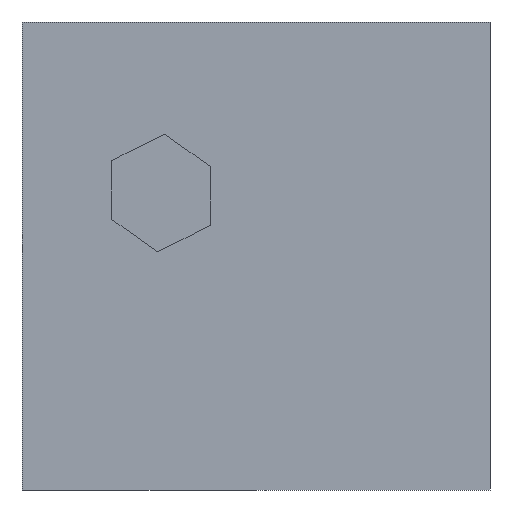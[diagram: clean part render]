
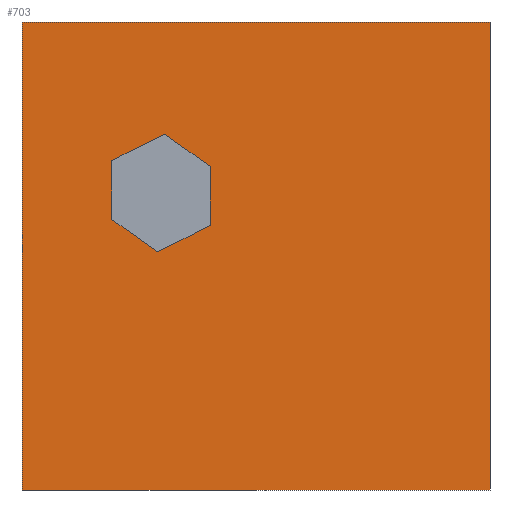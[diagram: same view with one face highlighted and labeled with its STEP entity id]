
A CAD part, left-side view. The second image highlights one B-rep face of the part: STEP entity #703.
In plain terms, the highlighted planar face has unit normal (-1, 0, 0).
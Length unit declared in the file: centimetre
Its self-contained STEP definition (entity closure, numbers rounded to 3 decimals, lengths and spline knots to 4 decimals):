
#7 = ORIENTED_EDGE ( 'NONE', *, *, #295, .F. ) ;
#20 = CARTESIAN_POINT ( 'NONE',  ( 0., 1000., 1000. ) ) ;
#31 = VERTEX_POINT ( 'NONE', #55 ) ;
#55 = CARTESIAN_POINT ( 'NONE',  ( 0., 597.5668, 565.4635 ) ) ;
#78 = LINE ( 'NONE', #1147, #1235 ) ;
#81 = ORIENTED_EDGE ( 'NONE', *, *, #857, .F. ) ;
#110 = CARTESIAN_POINT ( 'NONE',  ( 0., 808.0331, 578.1658 ) ) ;
#135 = CARTESIAN_POINT ( 'NONE',  ( 0., 695.4663, 760.435 ) ) ;
#144 = VERTEX_POINT ( 'NONE', #20 ) ;
#145 = VERTEX_POINT ( 'NONE', #389 ) ;
#168 = CARTESIAN_POINT ( 'NONE',  ( 0., 710.1336, 508.9412 ) ) ;
#170 = VECTOR ( 'NONE', #360, 100. ) ;
#203 = VERTEX_POINT ( 'NONE', #258 ) ;
#232 = VECTOR ( 'NONE', #982, 100. ) ;
#235 = ORIENTED_EDGE ( 'NONE', *, *, #1052, .T. ) ;
#258 = CARTESIAN_POINT ( 'NONE',  ( 0., 808.0331, 578.1658 ) ) ;
#281 = DIRECTION ( 'NONE',  ( 0., 0., -1. ) ) ;
#295 = EDGE_CURVE ( 'NONE', #31, #345, #78, .T. ) ;
#297 = VECTOR ( 'NONE', #795, 100. ) ;
#308 = DIRECTION ( 'NONE',  ( 0., 0.894, -0.449 ) ) ;
#322 = VECTOR ( 'NONE', #1010, 100. ) ;
#334 = EDGE_CURVE ( 'NONE', #144, #744, #883, .T. ) ;
#340 = ORIENTED_EDGE ( 'NONE', *, *, #661, .F. ) ;
#345 = VERTEX_POINT ( 'NONE', #715 ) ;
#351 = ORIENTED_EDGE ( 'NONE', *, *, #334, .F. ) ;
#353 = VERTEX_POINT ( 'NONE', #423 ) ;
#360 = DIRECTION ( 'NONE',  ( 0., -1., 0. ) ) ;
#371 = CARTESIAN_POINT ( 'NONE',  ( 0., 1000., 1000. ) ) ;
#373 = EDGE_CURVE ( 'NONE', #1220, #700, #517, .T. ) ;
#376 = CARTESIAN_POINT ( 'NONE',  ( 0., 808.0331, 703.9127 ) ) ;
#389 = CARTESIAN_POINT ( 'NONE',  ( 0., 0., 0. ) ) ;
#403 = ORIENTED_EDGE ( 'NONE', *, *, #1171, .F. ) ;
#423 = CARTESIAN_POINT ( 'NONE',  ( 0., 1000., 0. ) ) ;
#451 = LINE ( 'NONE', #1228, #536 ) ;
#465 = DIRECTION ( 'NONE',  ( 1., 0., 0. ) ) ;
#517 = LINE ( 'NONE', #135, #1038 ) ;
#520 = ORIENTED_EDGE ( 'NONE', *, *, #946, .F. ) ;
#536 = VECTOR ( 'NONE', #281, 100. ) ;
#543 = DIRECTION ( 'NONE',  ( 0., 0.816, 0.577 ) ) ;
#549 = ORIENTED_EDGE ( 'NONE', *, *, #899, .F. ) ;
#558 = DIRECTION ( 'NONE',  ( 0., -0.894, 0.449 ) ) ;
#565 = FACE_OUTER_BOUND ( 'NONE', #707, .T. ) ;
#568 = CARTESIAN_POINT ( 'NONE',  ( 0., 710.1336, 508.9412 ) ) ;
#573 = VECTOR ( 'NONE', #1080, 100. ) ;
#574 = VECTOR ( 'NONE', #558, 100. ) ;
#584 = PLANE ( 'NONE',  #1069 ) ;
#645 = ORIENTED_EDGE ( 'NONE', *, *, #373, .F. ) ;
#658 = LINE ( 'NONE', #168, #574 ) ;
#661 = EDGE_CURVE ( 'NONE', #1023, #31, #658, .T. ) ;
#664 = FACE_BOUND ( 'NONE', #1060, .T. ) ;
#698 = CARTESIAN_POINT ( 'NONE',  ( 0., 695.4663, 760.435 ) ) ;
#700 = VERTEX_POINT ( 'NONE', #376 ) ;
#703 = ADVANCED_FACE ( 'NONE', ( #664, #565 ), #584, .F. ) ;
#704 = CARTESIAN_POINT ( 'NONE',  ( 0., 0., 1000. ) ) ;
#707 = EDGE_LOOP ( 'NONE', ( #235, #520, #351, #831 ) ) ;
#710 = LINE ( 'NONE', #1175, #297 ) ;
#715 = CARTESIAN_POINT ( 'NONE',  ( 0., 597.5668, 691.2104 ) ) ;
#720 = CARTESIAN_POINT ( 'NONE',  ( 0., 808.0331, 703.9127 ) ) ;
#744 = VERTEX_POINT ( 'NONE', #704 ) ;
#795 = DIRECTION ( 'NONE',  ( 0., 0., -1. ) ) ;
#818 = CARTESIAN_POINT ( 'NONE',  ( 0., 597.5668, 691.2104 ) ) ;
#824 = LINE ( 'NONE', #720, #322 ) ;
#831 = ORIENTED_EDGE ( 'NONE', *, *, #1145, .T. ) ;
#857 = EDGE_CURVE ( 'NONE', #700, #203, #824, .T. ) ;
#858 = CARTESIAN_POINT ( 'NONE',  ( 0., 1000., 0. ) ) ;
#875 = LINE ( 'NONE', #110, #232 ) ;
#883 = LINE ( 'NONE', #1181, #573 ) ;
#899 = EDGE_CURVE ( 'NONE', #345, #1220, #905, .T. ) ;
#905 = LINE ( 'NONE', #818, #1088 ) ;
#946 = EDGE_CURVE ( 'NONE', #744, #145, #451, .T. ) ;
#947 = LINE ( 'NONE', #858, #170 ) ;
#953 = DIRECTION ( 'NONE',  ( 0., 0., -1. ) ) ;
#959 = DIRECTION ( 'NONE',  ( 0., 0., 1. ) ) ;
#982 = DIRECTION ( 'NONE',  ( 0., -0.816, -0.577 ) ) ;
#1010 = DIRECTION ( 'NONE',  ( 0., 0., -1. ) ) ;
#1023 = VERTEX_POINT ( 'NONE', #568 ) ;
#1038 = VECTOR ( 'NONE', #308, 100. ) ;
#1052 = EDGE_CURVE ( 'NONE', #353, #145, #947, .T. ) ;
#1060 = EDGE_LOOP ( 'NONE', ( #81, #645, #549, #7, #340, #403 ) ) ;
#1069 = AXIS2_PLACEMENT_3D ( 'NONE', #371, #465, #953 ) ;
#1080 = DIRECTION ( 'NONE',  ( 0., -1., 0. ) ) ;
#1088 = VECTOR ( 'NONE', #543, 100. ) ;
#1145 = EDGE_CURVE ( 'NONE', #144, #353, #710, .T. ) ;
#1147 = CARTESIAN_POINT ( 'NONE',  ( 0., 597.5668, 565.4635 ) ) ;
#1171 = EDGE_CURVE ( 'NONE', #203, #1023, #875, .T. ) ;
#1175 = CARTESIAN_POINT ( 'NONE',  ( 0., 1000., 1000. ) ) ;
#1181 = CARTESIAN_POINT ( 'NONE',  ( 0., 1000., 1000. ) ) ;
#1220 = VERTEX_POINT ( 'NONE', #698 ) ;
#1228 = CARTESIAN_POINT ( 'NONE',  ( 0., 0., 1000. ) ) ;
#1235 = VECTOR ( 'NONE', #959, 100. ) ;
